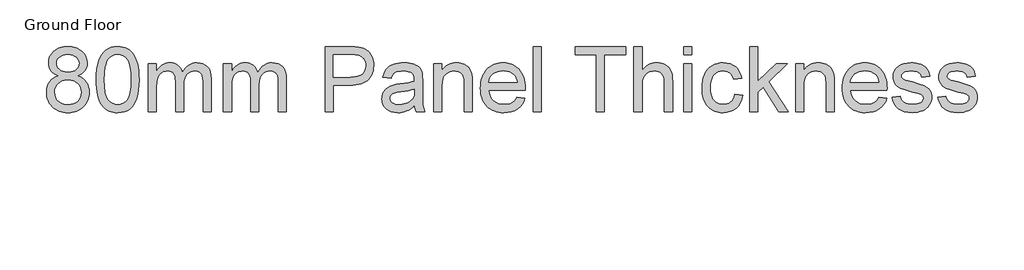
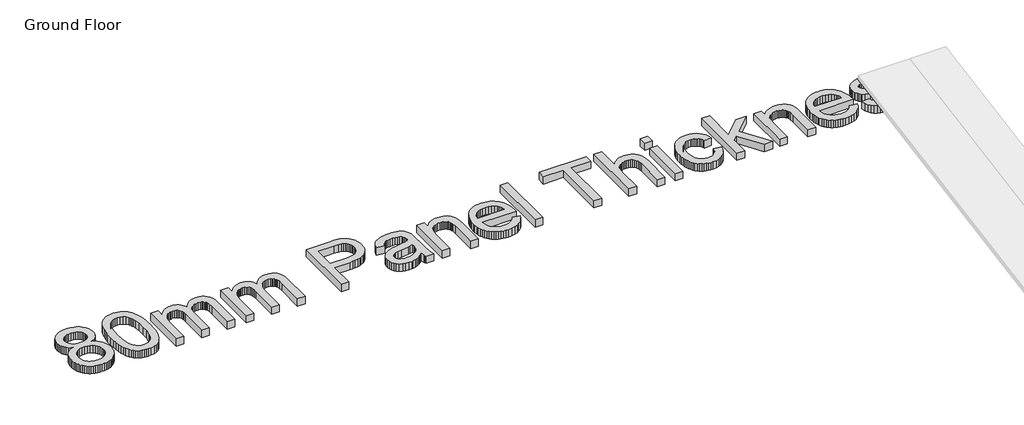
# One storey, part 3 of 5: 1 proxy.
"""IFC4 building model written with IfcOpenShell, lengths in millimetres."""

import ifcopenshell
import ifcopenshell.guid

model = None  # the IFC model being written
_history = None  # IfcOwnerHistory: only IFC2X3 demands one
_inside = {}  # id of a spatial element -> (the spatial element, [elements in it])
_under = {}  # id of a project, library or spatial element -> (it, [spatial elements below it])
_declared = {}  # id of a project -> (the project, [libraries it declares])
_typed = {}  # id of a type object -> (the type object, [elements of that type])
_made_of = {}  # id of a material, layer set ... -> (it, [elements and type objects made of it])


def new_model(schema):
    """Start an empty IFC model of exactly this schema.

    Asked for "IFC4X3", IfcOpenShell would pick the latest addendum, in which some entities
    have other attributes; the version numbers below select the first issue.
    IFC2X3 requires an IfcOwnerHistory on every rooted entity: one is made here for all.
    """
    global model, _history
    if schema == "IFC4X3":
        model = ifcopenshell.file(schema_version=(4, 3, 0, 0))
    else:
        model = ifcopenshell.file(schema=schema)
    _inside.clear()
    _under.clear()
    _declared.clear()
    _typed.clear()
    _made_of.clear()
    _history = None
    if model.schema == "IFC2X3":
        org = make("IfcOrganization", Name="unknown")
        user = make(
            "IfcPersonAndOrganization",
            ThePerson=make("IfcPerson", FamilyName="unknown"),
            TheOrganization=org,
        )
        app = make(
            "IfcApplication",
            ApplicationDeveloper=org,
            Version="unknown",
            ApplicationFullName="unknown",
            ApplicationIdentifier="unknown",
        )
        _history = make(
            "IfcOwnerHistory",
            OwningUser=user,
            OwningApplication=app,
            ChangeAction="ADDED",
            CreationDate=0,
        )
    return model


def make(cls, **values):
    """One entity of the class cls with the attributes given. An attribute that is None is left unset."""
    return model.create_entity(
        cls, **{name: value for name, value in values.items() if value is not None}
    )


def rooted(cls, **values):
    """An entity with a GlobalId (a new one), such as an element, a storey or a relation."""
    return make(cls, GlobalId=ifcopenshell.guid.new(), OwnerHistory=_history, **values)


def si_unit(unit_type, name, prefix=None):
    """IfcSIUnit, for example si_unit("LENGTHUNIT", "METRE", prefix="MILLI")."""
    return make("IfcSIUnit", UnitType=unit_type, Prefix=prefix, Name=name)


def assignment(units):
    """IfcUnitAssignment: the units of a project."""
    return None if units is None else make("IfcUnitAssignment", Units=units)


def point(xyz):
    """IfcCartesianPoint."""
    return None if xyz is None else make("IfcCartesianPoint", Coordinates=xyz)


def direction(xyz):
    """IfcDirection."""
    return None if xyz is None else make("IfcDirection", DirectionRatios=xyz)


def frame(location, z_axis=None, x_axis=None):
    """IfcAxis2Placement3D, a coordinate frame: its origin and axes. An axis left out is left unset."""
    return make(
        "IfcAxis2Placement3D",
        Location=point(location),
        Axis=direction(z_axis),
        RefDirection=direction(x_axis),
    )


def origin():
    """The frame at (0, 0, 0) with its axes left unset."""
    return frame((0.0, 0.0, 0.0))


def origin_with_axes():
    """The frame at (0, 0, 0) with the z axis (0, 0, 1) and the x axis (1, 0, 0) written out."""
    return frame((0.0, 0.0, 0.0), z_axis=(0.0, 0.0, 1.0), x_axis=(1.0, 0.0, 0.0))


def place(relative_to, where):
    """IfcLocalPlacement: puts the frame where relative to a parent placement (None: the world)."""
    return make(
        "IfcLocalPlacement", PlacementRelTo=relative_to, RelativePlacement=where
    )


def context(
    kind, dimensions, precision=None, world=None, true_north=None, identifier=None
):
    """IfcGeometricRepresentationContext, for example the 3D "Model" context."""
    return make(
        "IfcGeometricRepresentationContext",
        ContextIdentifier=identifier,
        ContextType=kind,
        CoordinateSpaceDimension=dimensions,
        Precision=precision,
        WorldCoordinateSystem=world,
        TrueNorth=true_north,
    )


def project(units=None, contexts=None):
    """IfcProject with its units and contexts."""
    return rooted(
        "IfcProject",
        Name="project",
        RepresentationContexts=contexts,
        UnitsInContext=assignment(units),
    )


def spatial(cls, under=None, at=None, **own):
    """A site, building, storey or space (cls), placed at a placement, below another one or the project."""
    s = rooted(cls, ObjectPlacement=at, **own)
    if under is not None:
        _under.setdefault(under.id(), (under, []))[1].append(s)
    return s


def polyline(points):
    """IfcPolyline through the points."""
    return make("IfcPolyline", Points=[point(p) for p in points])


def outline(outer, holes=None, kind="AREA"):
    """IfcArbitraryClosedProfileDef: a profile drawn as a closed curve; with holes, ...WithVoids."""
    if holes is None:
        return make("IfcArbitraryClosedProfileDef", ProfileType=kind, OuterCurve=outer)
    return make(
        "IfcArbitraryProfileDefWithVoids",
        ProfileType=kind,
        OuterCurve=outer,
        InnerCurves=holes,
    )


def extrude(swept, where, along, depth):
    """IfcExtrudedAreaSolid: the profile swept, set in the frame where, extruded along a direction by depth."""
    return make(
        "IfcExtrudedAreaSolid",
        SweptArea=swept,
        Position=where,
        ExtrudedDirection=direction(along),
        Depth=depth,
    )


def shape(context_of_items, identifier, shape_type, items):
    """IfcShapeRepresentation: the items that make up one representation, for example the "Body"."""
    return make(
        "IfcShapeRepresentation",
        ContextOfItems=context_of_items,
        RepresentationIdentifier=identifier,
        RepresentationType=shape_type,
        Items=items,
    )


def made_of(thing, what):
    """Note that an element or type object is made of a material, layer set ...; save() writes the relation."""
    if what is not None:
        _made_of.setdefault(what.id(), (what, []))[1].append(thing)
    return thing


def element(
    cls,
    number,
    at=None,
    inside=None,
    cuts=None,
    type_object=None,
    material=None,
    context=None,
    identifier="Body",
    shape_type=None,
    held_by="IfcProductDefinitionShape",
    body=None,
    shapes=None,
    **own,
):
    """One element of the class cls, such as IfcWall. Its Tag is "e" and its number.

    at: its placement. inside: the storey or other place that contains it. cuts: it is an
    opening in that element (IfcRelVoidsElement). A single representation is given by context,
    identifier, shape_type and body (its items); several are given by shapes. held_by: the class
    of the entity that holds the representations. save() writes the other relations.
    """
    e = rooted(cls, Tag="e%d" % number, ObjectPlacement=at, **own)
    if body is not None:
        shapes = [shape(context, identifier, shape_type, body)]
    if shapes is not None:
        e.Representation = make(held_by, Representations=shapes)
    if inside is not None:
        _inside.setdefault(inside.id(), (inside, []))[1].append(e)
    if cuts is not None:
        rooted(
            "IfcRelVoidsElement", RelatingBuildingElement=cuts, RelatedOpeningElement=e
        )
    if type_object is not None:
        _typed.setdefault(type_object.id(), (type_object, []))[1].append(e)
    return made_of(e, material)


def aggregate(whole, parts):
    """IfcRelAggregates: a whole, such as a stair, and the parts it consists of."""
    return rooted("IfcRelAggregates", RelatingObject=whole, RelatedObjects=parts)


def save(model, path):
    """Write the relations noted so far, then the file.

    IfcRelAggregates (storeys below a building ...), IfcRelContainedInSpatialStructure (elements
    in a storey), IfcRelDefinesByType, IfcRelAssociatesMaterial and IfcRelDeclares: one each for
    every whole, place, type object, material and project.
    """
    for whole, parts in _under.values():
        aggregate(whole, parts)
    for where, things in _inside.values():
        rooted(
            "IfcRelContainedInSpatialStructure",
            RelatedElements=things,
            RelatingStructure=where,
        )
    for kind, things in _typed.values():
        rooted("IfcRelDefinesByType", RelatedObjects=things, RelatingType=kind)
    for what, things in _made_of.values():
        rooted("IfcRelAssociatesMaterial", RelatedObjects=things, RelatingMaterial=what)
    for by, libraries in _declared.values():
        rooted("IfcRelDeclares", RelatingContext=by, RelatedDefinitions=libraries)
    model.write(path)


model = new_model("IFC4")

# Units and contexts
model_context = context("Model", 3, world=origin())
ifc_project = project(units=[si_unit("LENGTHUNIT", "METRE", prefix="MILLI")], contexts=[model_context])

# Site, building, storey
site = spatial("IfcSite", under=ifc_project)
building = spatial("IfcBuilding", under=site)
storey = spatial("IfcBuildingStorey", under=building, Name="Ground Floor", Elevation=0.0)

# Proxy
placement = place(None, origin())
element("IfcBuildingElementProxy", 1, Name="1200mm Arial", ObjectType="1200mm Arial", at=placement, inside=storey, context=model_context, shape_type="SweptSolid", body=[
    extrude(outline(polyline([(-16468.8654482, -36841.548191), (-16511.1251251, -36823.9018842), (-16547.5206329, -36802.8123956), (-16578.0519717, -36778.2797251), (-16602.7191414, -36750.3038729), (-16621.737341, -36719.1538373), (-16635.3217693, -36685.0986172), (-16643.4724262, -36648.1382123), (-16646.1893119, -36608.2726229), (-16640.2713431, -36548.3576726), (-16632.8738822, -36520.2697376), (-16622.5174369, -36493.4281626), (-16609.2020072, -36467.8329478), (-16592.9275931, -36443.484093), (-16551.5018119, -36398.5254638), (-16526.8480921, -36378.6195689), (-16500.2306826, -36361.3677933), (-16471.6495835, -36346.7701371), (-16441.1047948, -36334.8266001), (-16374.1241485, -36318.9018842), (-16299.2887437, -36313.5936456), (-16224.0946741, -36319.0274169), (-16156.6118971, -36335.3287308), (-16125.7622433, -36347.5547163), (-16096.8404127, -36362.4975873), (-16069.8464053, -36380.1573441), (-16044.780221, -36400.5339865), (-16002.6012437, -36446.3713445), (-15986.0309312, -36471.0654141), (-15972.4734028, -36496.9430774), (-15961.9286585, -36524.0043345), (-15954.3966982, -36552.2491854), (-15948.3711301, -36612.2896683), (-15951.0521492, -36650.7474986), (-15959.0952068, -36686.6408757), (-15972.5003026, -36719.9697997), (-15991.2674369, -36750.7342706), (-16015.4862757, -36778.5218239), (-16045.2464852, -36802.919995), (-16080.5480654, -36823.9287841), (-16121.3910164, -36841.548191), (-16073.1057714, -36862.0907159), (-16030.9716272, -36888.138745), (-15994.9885839, -36919.6922784), (-15965.1566414, -36956.751316), (-15941.7447984, -36998.490929), (-15925.0220534, -37044.0861882), (-15914.9884063, -37093.5370937), (-15911.6438573, -37146.8436456), (-15913.3026819, -37184.2434148), (-15918.2791556, -37220.1188587), (-15926.5732785, -37254.4699773), (-15938.1850505, -37287.2967706), (-15953.1144717, -37318.5992386), (-15971.361542, -37348.3773814), (-15992.9262615, -37376.6311989), (-16017.8086301, -37403.360691), (-16045.3989177, -37427.7050625), (-16075.0873943, -37448.8035177), (-16106.8740597, -37466.6560568), (-16140.7589141, -37481.2626797), (-16176.7419575, -37492.6233864), (-16214.8231897, -37500.7381768), (-16255.0026109, -37505.6070511), (-16297.280221, -37507.2300092), (-16339.5578311, -37505.6003262), (-16379.7372522, -37500.711277), (-16417.8184845, -37492.5628617), (-16453.8015278, -37481.1550802), (-16487.6863822, -37466.4879327), (-16519.4730477, -37448.561419), (-16549.1615242, -37427.3755392), (-16576.7518119, -37402.9302933), (-16601.6341805, -37376.0506103), (-16623.1988999, -37347.561419), (-16641.4459703, -37317.4627196), (-16656.3753914, -37285.7545121), (-16667.9871634, -37252.4367963), (-16676.2812863, -37217.5095724), (-16681.25776, -37180.9728404), (-16682.9165846, -37142.8266001), (-16679.4375363, -37087.0900945), (-16669.0003914, -37036.0879638), (-16651.6051499, -36989.8202081), (-16627.2518119, -36948.2868274), (-16596.4783744, -36912.2410177), (-16559.8228346, -36882.4359751), (-16517.2851926, -36858.8716996), (-16468.8654482, -36841.548191)]), holes=[polyline([(-16499.280221, -36612.5766001), (-16496.0253382, -36646.2552223), (-16486.2606897, -36676.7058615), (-16469.9862757, -36703.9285177), (-16447.202096, -36727.923191), (-16418.1950825, -36747.5062876), (-16383.252167, -36761.4942138), (-16342.3733495, -36769.8869695), (-16295.5586301, -36772.6845547), (-16249.9006045, -36769.9049027), (-16209.9094823, -36761.5659467), (-16175.5852636, -36747.6676868), (-16146.9279482, -36728.2101229), (-16124.3320676, -36704.7175802), (-16108.1921528, -36678.7143842), (-16098.5082039, -36650.2005348), (-16095.280221, -36619.176032), (-16098.6158034, -36586.9410355), (-16108.6225505, -36557.3780916), (-16125.3004624, -36530.4872003), (-16148.6495391, -36506.2683615), (-16177.9524511, -36486.2459006), (-16212.4918687, -36471.9441427), (-16252.267792, -36463.3630881), (-16297.280221, -36460.5027365), (-16342.6423481, -36463.3003217), (-16382.6065704, -36471.6930774), (-16417.1728879, -36485.6810035), (-16446.3413005, -36505.2641001), (-16469.5020782, -36528.7566427), (-16486.0454909, -36554.472907), (-16495.9715384, -36582.4128927), (-16499.280221, -36612.5766001)]), polyline([(-16536.0074937, -37137.6618274), (-16529.8743261, -37193.8645973), (-16511.4748232, -37248.2740433), (-16496.8502671, -37273.5150767), (-16477.5092693, -37295.7253927), (-16453.4518296, -37314.9049915), (-16424.6779482, -37331.0538729), (-16393.2947806, -37343.8582052), (-16361.4094823, -37353.004157), (-16329.0220534, -37358.491728), (-16296.1324937, -37360.3209183), (-16243.0142409, -37356.4742386), (-16196.1367551, -37344.9341996), (-16155.5000363, -37325.7008011), (-16121.1040846, -37298.7740433), (-16093.7379624, -37265.9113835), (-16074.1907323, -37228.8702791), (-16062.4623943, -37187.6507301), (-16058.5529482, -37142.2527365), (-16062.5879269, -37096.1284467), (-16074.692863, -37054.1646683), (-16094.8677565, -37016.3614013), (-16123.1126073, -36982.7186456), (-16158.4410874, -36955.1014581), (-16199.8668687, -36935.3748956), (-16247.3899511, -36923.5389581), (-16301.0103346, -36919.5936456), (-16353.3484916, -36923.4851584), (-16399.6072806, -36935.1596967), (-16439.7867018, -36954.6172606), (-16473.8867551, -36981.8578501), (-16501.0645782, -37014.9446754), (-16520.477309, -37051.9409467), (-16532.1249475, -37092.8466641), (-16536.0074937, -37137.6618274)])]), origin_with_axes(), (0.0, 0.0, 1.0), 150.0),
    extrude(outline(polyline([(-15783.0984028, -36910.6987592), (-15780.3994504, -36811.8776477), (-15772.3025931, -36722.5790859), (-15758.8078311, -36642.8030739), (-15739.9151641, -36572.5496115), (-15715.705292, -36511.2448352), (-15686.2589141, -36458.3148814), (-15651.5760306, -36413.75975), (-15611.6566414, -36377.579441), (-15566.3662472, -36349.5856555), (-15515.5703488, -36329.5900945), (-15459.2689461, -36317.5927578), (-15397.4620391, -36313.5936456), (-15351.0149511, -36315.9608331), (-15306.9350505, -36323.0623956), (-15265.2223374, -36334.8983331), (-15225.8768119, -36351.4686456), (-15189.8489355, -36372.4953679), (-15158.0891698, -36397.7005348), (-15130.597515, -36427.0841463), (-15107.373971, -36460.6462024), (-15087.2528772, -36498.2522038), (-15069.0685732, -36539.7676513), (-15038.5103346, -36634.5268842), (-15026.8357963, -36690.2544233), (-15018.4968403, -36754.8589155), (-15013.4934667, -36828.3403608), (-15011.8256755, -36910.6987592), (-15014.4977281, -37008.8922074), (-15022.5138857, -37097.7424382), (-15035.8741485, -37177.2494517), (-15054.5785164, -37247.4132479), (-15078.6000896, -37308.744924), (-15107.9119681, -37361.7555774), (-15142.5141521, -37406.4452081), (-15182.4066414, -37442.813816), (-15227.7508353, -37470.9959006), (-15278.7081329, -37491.1259609), (-15335.2785342, -37503.2039971), (-15397.4620391, -37507.2300092), (-15439.0671528, -37505.4815185), (-15478.3768119, -37500.2360462), (-15515.3910164, -37491.4935923), (-15550.1097664, -37479.254157), (-15582.5330619, -37463.51774), (-15612.6609028, -37444.2843416), (-15640.4932891, -37421.5539616), (-15666.030221, -37395.3266001), (-15693.4680761, -37353.7977028), (-15717.2475505, -37306.8260675), (-15737.3686443, -37254.4116942), (-15753.8313573, -37196.5545831), (-15766.6356897, -37133.254734), (-15775.7816414, -37064.512147), (-15781.2692124, -36990.3268221), (-15783.0984028, -36910.6987592)]), holes=[polyline([(-15636.1893119, -36910.4118274), (-15631.8853346, -37038.1233864), (-15618.9734028, -37141.4995405), (-15609.2894539, -37184.0618407), (-15597.4535164, -37220.5402898), (-15583.4655903, -37250.9348876), (-15567.3256755, -37275.2456342), (-15530.8853346, -37312.466071), (-15490.4279482, -37339.0520973), (-15445.9535164, -37355.0037131), (-15397.4620391, -37360.3209183), (-15348.9705619, -37354.9857798), (-15304.4961301, -37338.9803643), (-15264.0387437, -37312.3046719), (-15227.5984028, -37274.9587024), (-15211.458488, -37250.5896728), (-15197.4705619, -37220.1636918), (-15185.6346244, -37183.6807594), (-15175.9506755, -37141.1408757), (-15163.0387437, -37037.8902543), (-15158.7347664, -36910.4118274), (-15162.8952778, -36786.0806839), (-15175.3768119, -36684.5247535), (-15184.7379624, -36642.2874932), (-15196.1793687, -36605.7440362), (-15209.7010306, -36574.8943824), (-15225.3029482, -36549.738532), (-15261.133559, -36510.6978714), (-15302.0572096, -36482.8116854), (-15348.0738999, -36466.0799737), (-15399.1836301, -36460.5027365), (-15447.424042, -36465.4164439), (-15491.1452778, -36480.157566), (-15530.3473374, -36504.726103), (-15565.030221, -36539.1220547), (-15581.7081329, -36566.954441), (-15596.1623232, -36600.095066), (-15608.392792, -36638.5439297), (-15618.3995391, -36682.301032), (-15631.7418687, -36785.7399524), (-15636.1893119, -36910.4118274)])]), origin_with_axes(), (0.0, 0.0, 1.0), 150.0),
    extrude(outline(polyline([(-14846.5529482, -37488.8663729), (-14846.5529482, -36625.7754638), (-14699.6438573, -36625.7754638), (-14699.6438573, -36767.8067138), (-14679.1282323, -36733.4197287), (-14655.4563573, -36702.5655916), (-14628.6282323, -36675.2443025), (-14598.6438573, -36651.4558615), (-14565.9874298, -36632.1865966), (-14531.1431471, -36618.4228359), (-14494.1110093, -36610.1645795), (-14454.8910164, -36607.4118274), (-14412.0126428, -36610.2183793), (-14373.1871812, -36618.6380348), (-14338.4146315, -36632.670794), (-14307.6949937, -36652.316657), (-14281.117934, -36677.0196932), (-14258.7731187, -36706.2239723), (-14240.6605477, -36739.9294943), (-14226.780221, -36778.1362592), (-14200.9473907, -36738.1227205), (-14173.2315704, -36703.4443203), (-14143.63276, -36674.1010586), (-14112.1509596, -36650.0929354), (-14078.7861691, -36631.4199506), (-14043.5383886, -36618.0821044), (-14006.407618, -36610.0793967), (-13967.3938573, -36607.4118274), (-13908.5818012, -36611.850304), (-13856.9609738, -36625.1657337), (-13812.5313751, -36647.3581165), (-13775.2930051, -36678.4274524), (-13745.8555938, -36718.7324062), (-13724.8288715, -36768.6316427), (-13712.2128382, -36828.1251619), (-13708.0074937, -36897.2129638), (-13708.0074937, -37488.8663729), (-13854.9165846, -37488.8663729), (-13854.9165846, -36960.3379638), (-13858.3238999, -36887.0627507), (-13868.545846, -36837.6746115), (-13876.741336, -36819.8579389), (-13887.6985448, -36803.8525234), (-13901.4174724, -36789.658365), (-13917.8981187, -36777.2754638), (-13936.5397203, -36767.2328501), (-13956.7415136, -36760.0595547), (-14001.8256755, -36754.3209183), (-14043.457689, -36757.9972322), (-14081.4133886, -36769.026174), (-14115.6927742, -36787.4077436), (-14146.295846, -36813.141941), (-14171.4651464, -36846.9819623), (-14189.4432181, -36889.6810035), (-14200.2300612, -36941.2390646), (-14203.8256755, -37001.6561456), (-14203.8256755, -37488.8663729), (-14350.7347664, -37488.8663729), (-14350.7347664, -36943.9828501), (-14352.8598552, -36899.4725518), (-14359.2351215, -36860.9160888), (-14369.8605654, -36828.3134609), (-14384.7361869, -36801.6646683), (-14404.4537828, -36780.9517777), (-14429.6051499, -36766.1568558), (-14460.1902884, -36757.2799027), (-14496.2091982, -36754.3209183), (-14525.0637792, -36756.2935746), (-14552.8064994, -36762.2115433), (-14579.4373588, -36772.0748246), (-14604.9563573, -36785.8834183), (-14628.1978346, -36803.4938587), (-14647.9961301, -36824.7626797), (-14664.3512437, -36849.6898814), (-14677.2631755, -36878.2754638), (-14687.0547238, -36912.0437521), (-14694.0486869, -36952.5190717), (-14699.6438573, -37053.5908047), (-14699.6438573, -37488.8663729), (-14846.5529482, -37488.8663729)])), origin_with_axes(), (0.0, 0.0, 1.0), 150.0),
    extrude(outline(polyline([(-13487.6438573, -37488.8663729), (-13487.6438573, -36625.7754638), (-13340.7347664, -36625.7754638), (-13340.7347664, -36767.8067138), (-13320.2191414, -36733.4197287), (-13296.5472664, -36702.5655916), (-13269.7191414, -36675.2443025), (-13239.7347664, -36651.4558615), (-13207.0783389, -36632.1865966), (-13172.2340562, -36618.4228359), (-13135.2019184, -36610.1645795), (-13095.9819255, -36607.4118274), (-13053.1035519, -36610.2183793), (-13014.2780903, -36618.6380348), (-12979.5055406, -36632.670794), (-12948.7859028, -36652.316657), (-12922.2088431, -36677.0196932), (-12899.8640278, -36706.2239723), (-12881.7514568, -36739.9294943), (-12867.8711301, -36778.1362592), (-12842.0382998, -36738.1227205), (-12814.3224795, -36703.4443203), (-12784.7236691, -36674.1010586), (-12753.2418687, -36650.0929354), (-12719.8770782, -36631.4199506), (-12684.6292977, -36618.0821044), (-12647.4985271, -36610.0793967), (-12608.4847664, -36607.4118274), (-12549.6727103, -36611.850304), (-12498.0518829, -36625.1657337), (-12453.6222842, -36647.3581165), (-12416.3839141, -36678.4274524), (-12386.9465029, -36718.7324062), (-12365.9197806, -36768.6316427), (-12353.3037472, -36828.1251619), (-12349.0984028, -36897.2129638), (-12349.0984028, -37488.8663729), (-12496.0074937, -37488.8663729), (-12496.0074937, -36960.3379638), (-12499.414809, -36887.0627507), (-12509.6367551, -36837.6746115), (-12517.8322451, -36819.8579389), (-12528.7894539, -36803.8525234), (-12542.5083815, -36789.658365), (-12558.9890278, -36777.2754638), (-12577.6306293, -36767.2328501), (-12597.8324227, -36760.0595547), (-12642.9165846, -36754.3209183), (-12684.5485981, -36757.9972322), (-12722.5042977, -36769.026174), (-12756.7836833, -36787.4077436), (-12787.3867551, -36813.141941), (-12812.5560555, -36846.9819623), (-12830.5341272, -36889.6810035), (-12841.3209703, -36941.2390646), (-12844.9165846, -37001.6561456), (-12844.9165846, -37488.8663729), (-12991.8256755, -37488.8663729), (-12991.8256755, -36943.9828501), (-12993.9507643, -36899.4725518), (-13000.3260306, -36860.9160888), (-13010.9514745, -36828.3134609), (-13025.827096, -36801.6646683), (-13045.5446918, -36780.9517777), (-13070.696059, -36766.1568558), (-13101.2811975, -36757.2799027), (-13137.3001073, -36754.3209183), (-13166.1546883, -36756.2935746), (-13193.8974085, -36762.2115433), (-13220.5282678, -36772.0748246), (-13246.0472664, -36785.8834183), (-13269.2887437, -36803.4938587), (-13289.0870391, -36824.7626797), (-13305.4421528, -36849.6898814), (-13318.3540846, -36878.2754638), (-13328.1456329, -36912.0437521), (-13335.139596, -36952.5190717), (-13340.7347664, -37053.5908047), (-13340.7347664, -37488.8663729), (-13487.6438573, -37488.8663729)])), origin_with_axes(), (0.0, 0.0, 1.0), 150.0),
    extrude(outline(polyline([(-11651.280221, -37488.8663729), (-11651.280221, -36313.5936456), (-11215.717721, -36313.5936456), (-11114.2873232, -36316.3912308), (-11040.1154482, -36324.7839865), (-10999.2366308, -36333.5981733), (-10961.8189284, -36345.6941427), (-10927.862341, -36361.0718949), (-10897.3668687, -36379.7314297), (-10870.0097132, -36402.0583118), (-10845.4680761, -36428.4381058), (-10823.7419575, -36458.8708118), (-10804.8313573, -36493.3564297), (-10789.5163715, -36530.7561989), (-10778.577096, -36569.9313587), (-10772.0135306, -36610.8819091), (-10769.8256755, -36653.6078501), (-10775.7346776, -36725.7532692), (-10783.1209303, -36759.6605401), (-10793.461684, -36792.1241854), (-10806.7569388, -36823.1442049), (-10823.0066947, -36852.7205987), (-10842.2109516, -36880.8533668), (-10864.3697096, -36907.5425092), (-10890.3841139, -36931.8868807), (-10921.1553097, -36952.9853359), (-10956.6832971, -36970.837875), (-10996.9680761, -36985.4444979), (-11042.0096466, -36996.8052045), (-11091.8080086, -37004.919995), (-11146.3631622, -37009.7888693), (-11205.6751073, -37011.4118274), (-11504.3711301, -37011.4118274), (-11504.3711301, -37488.8663729), (-11651.280221, -37488.8663729)]), holes=[polyline([(-11504.3711301, -36864.5027365), (-11197.0671528, -36864.5027365), (-11126.4101926, -36861.1312876), (-11066.8001073, -36851.016941), (-11018.2368971, -36834.1596967), (-10980.7205619, -36810.5595547), (-10952.7267764, -36780.8441783), (-10932.7312153, -36745.6412308), (-10920.7338786, -36704.9507123), (-10916.7347664, -36658.7726229), (-10919.0929873, -36624.4842706), (-10926.1676499, -36592.7783047), (-10937.9587543, -36563.6547251), (-10954.4663005, -36537.113532), (-10974.8115597, -36514.0155206), (-10998.1158034, -36495.2214865), (-11024.3790313, -36480.7314297), (-11053.6012437, -36470.5453501), (-11110.2702778, -36463.0133899), (-11200.5103346, -36460.5027365), (-11504.3711301, -36460.5027365), (-11504.3711301, -36864.5027365)])]), origin_with_axes(), (0.0, 0.0, 1.0), 150.0),
    extrude(outline(polyline([(-10035.280221, -37378.6845547), (-10070.115537, -37411.3768487), (-10105.470917, -37438.8685035), (-10141.3463609, -37461.1595192), (-10177.7418687, -37478.2498956), (-10215.0699049, -37490.9286953), (-10253.742934, -37499.9849808), (-10293.7609561, -37505.4187521), (-10335.123971, -37507.2300092), (-10400.5354589, -37502.8722322), (-10457.8949227, -37489.7989013), (-10507.2023623, -37468.0100163), (-10548.4577778, -37437.5055774), (-10581.0335058, -37400.2223743), (-10604.3018829, -37358.0971967), (-10618.2629092, -37311.1300447), (-10622.9165846, -37259.3209183), (-10621.1591272, -37228.1708828), (-10615.8867551, -37198.4196399), (-10607.0994681, -37170.0671896), (-10594.7972664, -37143.113532), (-10579.6347132, -37118.1504638), (-10562.2663715, -37095.769782), (-10542.6922416, -37075.9714865), (-10520.9123232, -37058.7555774), (-10472.3132465, -37030.7797251), (-10418.0472664, -37010.551032), (-10365.1800789, -36999.2889581), (-10290.936471, -36988.457282), (-10140.7276641, -36965.2158047), (-10082.7315704, -36952.088674), (-10036.1410164, -36937.957282), (-10035.280221, -36905.2470547), (-10037.8088076, -36869.6316427), (-10045.3945676, -36839.6831342), (-10058.0375008, -36815.4015291), (-10075.7376073, -36796.7868274), (-10106.3317124, -36778.2079922), (-10143.5969823, -36764.9373956), (-10187.533417, -36756.9750376), (-10238.1410164, -36754.3209183), (-10285.1978346, -36756.0873423), (-10325.655221, -36761.3866143), (-10359.5131755, -36770.2187344), (-10386.7716982, -36782.5837024), (-10409.1703133, -36799.4499133), (-10428.4485448, -36821.7857621), (-10444.6063928, -36849.5912486), (-10457.6438573, -36882.8663729), (-10604.5529482, -36864.5027365), (-10593.371574, -36822.1802933), (-10579.0518829, -36784.1618274), (-10561.5938751, -36750.4473388), (-10540.9975505, -36721.0368274), (-10516.3752139, -36695.3384964), (-10486.8391698, -36672.760549), (-10452.3894184, -36653.3029851), (-10413.0259596, -36636.9658047), (-10369.5468225, -36624.0359396), (-10322.7500363, -36614.8003217), (-10272.6356009, -36609.258951), (-10219.2035164, -36607.4118274), (-10166.9729589, -36609.0437521), (-10119.8892409, -36613.9395263), (-10077.9523623, -36622.0991498), (-10041.1623232, -36633.5226229), (-10009.2142586, -36647.4119162), (-9981.8033034, -36662.9690007), (-9958.9294575, -36680.1938764), (-9940.592721, -36699.0865433), (-9925.7260661, -36720.1132656), (-9913.2624653, -36743.7403075), (-9895.5444255, -36798.7953501), (-9890.1644539, -36849.582282), (-9888.3711301, -36927.3408047), (-9888.3711301, -37110.1163729), (-9886.5060732, -37269.3276655), (-9880.9109028, -37365.3422251), (-9869.8640278, -37428.4313587), (-9851.6438573, -37488.8663729), (-9998.5529482, -37488.8663729), (-10011.608346, -37464.3337024), (-10022.0813573, -37437.7925092), (-10035.280221, -37378.6845547)]), holes=[polyline([(-10035.280221, -37084.8663729), (-10079.6829198, -37097.5810391), (-10133.9847664, -37109.3273104), (-10272.2859028, -37129.9146683), (-10348.502167, -37141.1767422), (-10398.6793687, -37153.7300092), (-10431.5689284, -37170.0133899), (-10455.9222664, -37192.4658047), (-10470.9861869, -37219.3656626), (-10476.0074937, -37248.9913729), (-10473.2726748, -37271.8203856), (-10465.0682181, -37292.6767422), (-10451.3941237, -37311.5604425), (-10432.2503914, -37328.4714865), (-10407.8163538, -37342.4056129), (-10378.2713431, -37352.3585604), (-10343.6153595, -37358.3303288), (-10303.8484028, -37360.3209183), (-10263.2475505, -37358.1240966), (-10224.9421528, -37351.5336314), (-10188.9322096, -37340.5495227), (-10155.217721, -37325.1717706), (-10124.8029482, -37306.6736349), (-10098.6921528, -37286.3283757), (-10076.8853346, -37264.1359929), (-10059.3824937, -37240.0964865), (-10049.2143474, -37218.5766001), (-10041.9513857, -37192.4658047), (-10037.5936088, -37161.7641001), (-10036.1410164, -37126.4714865), (-10035.280221, -37084.8663729)])]), origin_with_axes(), (0.0, 0.0, 1.0), 150.0),
    extrude(outline(polyline([(-9686.3711301, -37488.8663729), (-9686.3711301, -36625.7754638), (-9539.4620391, -36625.7754638), (-9539.4620391, -36746.2868274), (-9515.2252671, -36713.7379993), (-9488.424042, -36685.5290149), (-9459.0583637, -36661.6598743), (-9427.1282323, -36642.1305774), (-9392.6336478, -36626.9411243), (-9355.5746102, -36616.0915149), (-9315.9511194, -36609.5817493), (-9273.7631755, -36607.4118274), (-9236.7938041, -36609.1603182), (-9201.3487579, -36614.4057905), (-9167.428037, -36623.1482443), (-9135.0316414, -36635.3876797), (-9105.387998, -36650.4695334), (-9079.7255335, -36667.7392422), (-9058.044248, -36687.1968061), (-9040.3441414, -36708.8422251), (-9013.6236159, -36758.5890291), (-8996.3001073, -36816.8720547), (-8990.489738, -36872.6085604), (-8988.5529482, -36958.9033047), (-8988.5529482, -37488.8663729), (-9135.4620391, -37488.8663729), (-9135.4620391, -36978.7016001), (-9139.6942835, -36902.7364013), (-9144.9845889, -36872.9851584), (-9152.3910164, -36848.7214865), (-9162.4784632, -36828.2865611), (-9175.8118261, -36810.0215575), (-9192.3911052, -36793.9264758), (-9212.2163005, -36780.001316), (-9234.605949, -36768.766142), (-9258.8785874, -36760.7410177), (-9285.034216, -36755.9259432), (-9313.0728346, -36754.3209183), (-9357.6817657, -36757.9254993), (-9399.1165136, -36768.7392422), (-9437.3770782, -36786.762147), (-9472.4634596, -36811.9942138), (-9488.1662517, -36828.0310124), (-9501.7753382, -36847.3047606), (-9513.290719, -36869.8154584), (-9522.7123943, -36895.5631058), (-9535.2746279, -36956.7692493), (-9539.4620391, -37030.923191), (-9539.4620391, -37488.8663729), (-9686.3711301, -37488.8663729)])), origin_with_axes(), (0.0, 0.0, 1.0), 150.0),
    extrude(outline(polyline([(-8182.2745391, -37231.7754638), (-8038.2347664, -37250.1391001), (-8060.3195498, -37307.8303288), (-8090.133559, -37358.6710604), (-8127.6767941, -37402.6612947), (-8172.9492551, -37439.801032), (-8225.4846776, -37469.3012095), (-8284.8167977, -37490.3727649), (-8350.9456151, -37503.0156981), (-8423.8711301, -37507.2300092), (-8470.6903328, -37505.4120272), (-8515.025782, -37499.958081), (-8556.8774777, -37490.8681706), (-8596.2454198, -37478.1422962), (-8633.1296084, -37461.7804576), (-8667.5300434, -37441.7826548), (-8699.4467249, -37418.148888), (-8728.8796528, -37390.879157), (-8755.3087632, -37360.3276433), (-8778.2139923, -37326.8485284), (-8797.5953399, -37290.4418123), (-8813.4528062, -37251.107495), (-8825.7863911, -37208.8455765), (-8834.5960945, -37163.6560568), (-8839.8819166, -37115.5389359), (-8841.6438573, -37064.4942138), (-8839.8639834, -37011.7122092), (-8834.5243616, -36961.9698885), (-8825.6249919, -36915.2672518), (-8813.1658744, -36871.604299), (-8797.147009, -36830.9810302), (-8777.5683957, -36793.3974453), (-8754.4300345, -36758.8535444), (-8727.7319255, -36727.3493274), (-8698.1958815, -36699.2389758), (-8666.5437153, -36674.8766712), (-8632.7754269, -36654.2624133), (-8596.8910164, -36637.3962024), (-8558.8904838, -36624.2780383), (-8518.7738289, -36614.9079212), (-8476.5410519, -36609.2858508), (-8432.1921528, -36607.4118274), (-8389.2936043, -36609.2813675), (-8348.3990953, -36614.8899879), (-8309.5086256, -36624.2376886), (-8272.6221954, -36637.3244695), (-8237.7398046, -36654.1503306), (-8204.8614532, -36674.715272), (-8173.9871412, -36699.0192937), (-8145.1168687, -36727.0623956), (-8118.9903817, -36758.4948796), (-8096.3474262, -36792.9670476), (-8077.1880024, -36830.4788995), (-8061.5121102, -36871.0304354), (-8049.3197496, -36914.6216552), (-8040.6109205, -36961.2525589), (-8035.3856231, -37010.9231467), (-8033.6438573, -37063.6334183), (-8034.5046528, -37103.2300092), (-8694.7347664, -37103.2300092), (-8686.2254447, -37161.8537663), (-8669.305434, -37213.1966285), (-8643.9747345, -37257.2585959), (-8610.233346, -37294.0396683), (-8569.9463254, -37323.0377152), (-8524.9787295, -37343.7506058), (-8475.3305583, -37356.1783402), (-8421.0018119, -37360.3209183), (-8380.3650931, -37358.4020618), (-8342.8128914, -37352.6454922), (-8308.3452068, -37343.0512095), (-8276.9620391, -37329.6192138), (-8248.6633886, -37311.9908402), (-8223.4492551, -37289.807424), (-8201.3196386, -37263.0689652), (-8182.2745391, -37231.7754638)]), holes=[polyline([(-8694.7347664, -36956.3209183), (-8180.5529482, -36956.3209183), (-8188.1028417, -36914.7516712), (-8200.4229766, -36878.7058615), (-8217.5133531, -36848.1834893), (-8239.373971, -36823.1845547), (-8279.4368261, -36793.0567138), (-8325.0231187, -36771.5368274), (-8376.1328488, -36758.6248956), (-8432.7660164, -36754.3209183), (-8484.4227103, -36757.7551335), (-8531.7933602, -36768.0577791), (-8574.877966, -36785.2288551), (-8613.6765278, -36809.2683615), (-8646.2343225, -36839.0644375), (-8670.5966272, -36873.5052223), (-8686.7634418, -36912.5907159), (-8694.7347664, -36956.3209183)])]), origin_with_axes(), (0.0, 0.0, 1.0), 150.0),
    extrude(outline(polyline([(-7886.7347664, -37488.8663729), (-7886.7347664, -36313.5936456), (-7739.8256755, -36313.5936456), (-7739.8256755, -37488.8663729), (-7886.7347664, -37488.8663729)])), origin_with_axes(), (0.0, 0.0, 1.0), 150.0),
    extrude(outline(polyline([(-6748.1893119, -37488.8663729), (-6748.1893119, -36460.5027365), (-7133.8256755, -36460.5027365), (-7133.8256755, -36313.5936456), (-6215.6438573, -36313.5936456), (-6215.6438573, -36460.5027365), (-6601.280221, -36460.5027365), (-6601.280221, -37488.8663729), (-6748.1893119, -37488.8663729)])), origin_with_axes(), (0.0, 0.0, 1.0), 150.0),
    extrude(outline(polyline([(-6068.7347664, -37488.8663729), (-6068.7347664, -36313.5936456), (-5921.8256755, -36313.5936456), (-5921.8256755, -36745.7129638), (-5895.6745303, -36713.2986349), (-5867.8645605, -36685.2062166), (-5838.3957661, -36661.4357088), (-5807.2681471, -36641.9871115), (-5774.4817036, -36626.8604247), (-5740.0364355, -36616.0556484), (-5703.9323428, -36609.5727827), (-5666.1694255, -36607.4118274), (-5620.2424014, -36609.7700483), (-5577.4357607, -36616.8447109), (-5537.7495036, -36628.6358153), (-5501.1836301, -36645.1433615), (-5468.6706684, -36665.811419), (-5441.1431471, -36690.0840575), (-5418.6010661, -36717.961277), (-5401.0444255, -36749.4430774), (-5387.8634951, -36786.4752152), (-5378.4485448, -36831.0034467), (-5372.7995747, -36883.027772), (-5370.9165846, -36942.548191), (-5370.9165846, -37488.8663729), (-5517.8256755, -37488.8663729), (-5517.8256755, -36957.7555774), (-5520.7487934, -36908.1522393), (-5529.5181471, -36865.7939297), (-5544.1337366, -36830.6806484), (-5564.5955619, -36802.8123956), (-5590.4194255, -36781.5973743), (-5621.1211301, -36766.4437876), (-5656.7006755, -36757.3516356), (-5697.1580619, -36754.3209183), (-5728.6757288, -36756.3653075), (-5759.242934, -36762.4984751), (-5788.8596776, -36772.7204212), (-5817.5259596, -36787.0311456), (-5843.6905548, -36804.8388516), (-5865.802238, -36825.5517422), (-5883.8610093, -36849.1698175), (-5897.8668687, -36875.6930774), (-5908.3488467, -36906.3409822), (-5915.8359738, -36942.3329922), (-5920.3282501, -36983.6691072), (-5921.8256755, -37030.3493274), (-5921.8256755, -37488.8663729), (-6068.7347664, -37488.8663729)])), origin_with_axes(), (0.0, 0.0, 1.0), 150.0),
    extrude(outline(polyline([(-5168.9165846, -37488.8663729), (-5168.9165846, -36625.7754638), (-5022.0074937, -36625.7754638), (-5022.0074937, -37488.8663729), (-5168.9165846, -37488.8663729)])), origin_with_axes(), (0.0, 0.0, 1.0), 150.0),
    extrude(outline(polyline([(-5168.9165846, -36460.5027365), (-5168.9165846, -36313.5936456), (-5022.0074937, -36313.5936456), (-5022.0074937, -36460.5027365), (-5168.9165846, -36460.5027365)])), origin_with_axes(), (0.0, 0.0, 1.0), 150.0),
    extrude(outline(polyline([(-4250.7347664, -37176.6845547), (-4103.8256755, -37195.048191), (-4119.8041911, -37264.369125), (-4144.7851926, -37325.7097677), (-4178.7686798, -37379.0701193), (-4221.7546528, -37424.4501797), (-4271.9318545, -37460.6663551), (-4327.4890278, -37486.5350518), (-4388.4261727, -37502.0562699), (-4454.7432891, -37507.2300092), (-4497.0052077, -37505.4254771), (-4537.1375541, -37500.0118807), (-4575.1403284, -37490.98922), (-4611.0135306, -37478.357495), (-4644.7571608, -37462.1167058), (-4676.3712188, -37442.2668523), (-4705.8557048, -37418.8079345), (-4733.2106187, -37391.7399524), (-4757.8576135, -37361.3005215), (-4779.2183424, -37327.7272571), (-4797.2928053, -37291.0201593), (-4812.0810022, -37251.179228), (-4823.5829331, -37208.2044632), (-4831.7985981, -37162.095865), (-4836.7279971, -37112.8534334), (-4838.3711301, -37060.4771683), (-4835.5645782, -36992.931625), (-4827.1449227, -36929.7438587), (-4813.1121634, -36870.9138693), (-4793.4663005, -36816.441657), (-4768.0728346, -36767.4211491), (-4736.7972664, -36724.9462734), (-4699.639596, -36689.0170298), (-4656.5998232, -36659.6334183), (-4609.6237046, -36636.7864723), (-4560.6569965, -36620.4672251), (-4509.699699, -36610.6756768), (-4456.7518119, -36607.4118274), (-4391.5734561, -36611.8951371), (-4332.617934, -36625.345066), (-4279.8852458, -36647.7616143), (-4233.3753914, -36679.144782), (-4193.8774333, -36718.7772393), (-4162.180434, -36765.941657), (-4138.2843936, -36820.6380348), (-4122.1893119, -36882.8663729), (-4269.0984028, -36901.2300092), (-4280.5667089, -36866.9147571), (-4295.7471954, -36837.1366143), (-4314.6398623, -36811.895581), (-4337.2447096, -36791.191657), (-4362.9878737, -36775.0607088), (-4391.2954909, -36763.538603), (-4422.1675612, -36756.6253395), (-4455.6040846, -36754.3209183), (-4505.5212543, -36758.8580277), (-4550.5426499, -36772.4693558), (-4590.6682714, -36795.1549027), (-4625.8981187, -36826.9146683), (-4641.2646626, -36846.3811989), (-4654.5823339, -36868.4839155), (-4675.071059, -36920.597907), (-4687.3642941, -36983.2566427), (-4691.4620391, -37056.4601229), (-4687.4539603, -37130.7664971), (-4675.4297238, -37194.1515291), (-4655.3893296, -37246.6152187), (-4642.3630734, -37268.7515602), (-4627.3327778, -37288.157566), (-4592.8023268, -37319.7290327), (-4553.3402352, -37342.2800802), (-4508.9465029, -37355.8107088), (-4459.6211301, -37360.3209183), (-4419.8721066, -37357.5053998), (-4383.5483318, -37349.0588445), (-4350.6498055, -37334.9812521), (-4321.1765278, -37315.2726229), (-4295.9534276, -37289.7177578), (-4275.805434, -37258.1014581), (-4260.732547, -37220.4237237), (-4250.7347664, -37176.6845547)])), origin_with_axes(), (0.0, 0.0, 1.0), 150.0),
    extrude(outline(polyline([(-3975.280221, -37488.8663729), (-3975.280221, -36313.5936456), (-3828.3711301, -36313.5936456), (-3828.3711301, -36945.1305774), (-3498.9734028, -36625.7754638), (-3295.8256755, -36625.7754638), (-3629.2404482, -36949.1476229), (-3277.4620391, -37488.8663729), (-3449.0472664, -37488.8663729), (-3734.5444255, -37051.2953501), (-3828.3711301, -37142.2527365), (-3828.3711301, -37488.8663729), (-3975.280221, -37488.8663729)])), origin_with_axes(), (0.0, 0.0, 1.0), 150.0),
    extrude(outline(polyline([(-3148.9165846, -37488.8663729), (-3148.9165846, -36625.7754638), (-3002.0074937, -36625.7754638), (-3002.0074937, -36746.2868274), (-2977.7707217, -36713.7379993), (-2950.9694965, -36685.5290149), (-2921.6038183, -36661.6598743), (-2889.6736869, -36642.1305774), (-2855.1791024, -36626.9411243), (-2818.1200647, -36616.0915149), (-2778.496574, -36609.5817493), (-2736.3086301, -36607.4118274), (-2699.3392586, -36609.1603182), (-2663.8942124, -36614.4057905), (-2629.9734916, -36623.1482443), (-2597.577096, -36635.3876797), (-2567.9334525, -36650.4695334), (-2542.270988, -36667.7392422), (-2520.5897025, -36687.1968061), (-2502.889596, -36708.8422251), (-2476.1690704, -36758.5890291), (-2458.8455619, -36816.8720547), (-2453.0351926, -36872.6085604), (-2451.0984028, -36958.9033047), (-2451.0984028, -37488.8663729), (-2598.0074937, -37488.8663729), (-2598.0074937, -36978.7016001), (-2602.239738, -36902.7364013), (-2607.5300434, -36872.9851584), (-2614.936471, -36848.7214865), (-2625.0239177, -36828.2865611), (-2638.3572806, -36810.0215575), (-2654.9365597, -36793.9264758), (-2674.7617551, -36780.001316), (-2697.1514035, -36768.766142), (-2721.424042, -36760.7410177), (-2747.5796705, -36755.9259432), (-2775.6182891, -36754.3209183), (-2820.2272203, -36757.9254993), (-2861.6619681, -36768.7392422), (-2899.9225328, -36786.762147), (-2935.0089141, -36811.9942138), (-2950.7117062, -36828.0310124), (-2964.3207927, -36847.3047606), (-2975.8361736, -36869.8154584), (-2985.2578488, -36895.5631058), (-2997.8200825, -36956.7692493), (-3002.0074937, -37030.923191), (-3002.0074937, -37488.8663729), (-3148.9165846, -37488.8663729)])), origin_with_axes(), (0.0, 0.0, 1.0), 150.0),
    extrude(outline(polyline([(-1644.8199937, -37231.7754638), (-1500.780221, -37250.1391001), (-1522.8650043, -37307.8303288), (-1552.6790136, -37358.6710604), (-1590.2222487, -37402.6612947), (-1635.4947096, -37439.801032), (-1688.0301322, -37469.3012095), (-1747.3622522, -37490.3727649), (-1813.4910697, -37503.0156981), (-1886.4165846, -37507.2300092), (-1933.2357874, -37505.4120272), (-1977.5712366, -37499.958081), (-2019.4229323, -37490.8681706), (-2058.7908744, -37478.1422962), (-2095.6750629, -37461.7804576), (-2130.075498, -37441.7826548), (-2161.9921794, -37418.148888), (-2191.4251073, -37390.879157), (-2217.8542178, -37360.3276433), (-2240.7594468, -37326.8485284), (-2260.1407945, -37290.4418123), (-2275.9982607, -37251.107495), (-2288.3318456, -37208.8455765), (-2297.1415491, -37163.6560568), (-2302.4273712, -37115.5389359), (-2304.1893119, -37064.4942138), (-2302.4094379, -37011.7122092), (-2297.0698161, -36961.9698885), (-2288.1704465, -36915.2672518), (-2275.7113289, -36871.604299), (-2259.6924635, -36830.9810302), (-2240.1138502, -36793.3974453), (-2216.9754891, -36758.8535444), (-2190.2773801, -36727.3493274), (-2160.741336, -36699.2389758), (-2129.0891698, -36674.8766712), (-2095.3208815, -36654.2624133), (-2059.436471, -36637.3962024), (-2021.4359383, -36624.2780383), (-1981.3192835, -36614.9079212), (-1939.0865065, -36609.2858508), (-1894.7376073, -36607.4118274), (-1851.8390589, -36609.2813675), (-1810.9445498, -36614.8899879), (-1772.0540802, -36624.2376886), (-1735.1676499, -36637.3244695), (-1700.2852591, -36654.1503306), (-1667.4069078, -36674.715272), (-1636.5325958, -36699.0192937), (-1607.6623232, -36727.0623956), (-1581.5358362, -36758.4948796), (-1558.8928808, -36792.9670476), (-1539.7334569, -36830.4788995), (-1524.0575647, -36871.0304354), (-1511.8652041, -36914.6216552), (-1503.1563751, -36961.2525589), (-1497.9310777, -37010.9231467), (-1496.1893119, -37063.6334183), (-1497.0501073, -37103.2300092), (-2157.280221, -37103.2300092), (-2148.7708992, -37161.8537663), (-2131.8508886, -37213.1966285), (-2106.520189, -37257.2585959), (-2072.7788005, -37294.0396683), (-2032.4917799, -37323.0377152), (-1987.524184, -37343.7506058), (-1937.8760129, -37356.1783402), (-1883.5472664, -37360.3209183), (-1842.9105477, -37358.4020618), (-1805.358346, -37352.6454922), (-1770.8906613, -37343.0512095), (-1739.5074937, -37329.6192138), (-1711.2088431, -37311.9908402), (-1685.9947096, -37289.807424), (-1663.8650931, -37263.0689652), (-1644.8199937, -37231.7754638)]), holes=[polyline([(-2157.280221, -36956.3209183), (-1643.0984028, -36956.3209183), (-1650.6482963, -36914.7516712), (-1662.9684312, -36878.7058615), (-1680.0588076, -36848.1834893), (-1701.9194255, -36823.1845547), (-1741.9822806, -36793.0567138), (-1787.5685732, -36771.5368274), (-1838.6783034, -36758.6248956), (-1895.311471, -36754.3209183), (-1946.9681649, -36757.7551335), (-1994.3388147, -36768.0577791), (-2037.4234205, -36785.2288551), (-2076.2219823, -36809.2683615), (-2108.7797771, -36839.0644375), (-2133.1420818, -36873.5052223), (-2149.3088964, -36912.5907159), (-2157.280221, -36956.3209183)])]), origin_with_axes(), (0.0, 0.0, 1.0), 150.0),
    extrude(outline(polyline([(-1404.3711301, -37231.7754638), (-1257.4620391, -37213.4118274), (-1248.585086, -37246.9111172), (-1234.2922948, -37276.2498956), (-1214.5836656, -37301.4281626), (-1189.4591982, -37322.4459183), (-1158.8471599, -37339.0162308), (-1122.6758176, -37350.8521683), (-1080.9451713, -37357.9537308), (-1033.655221, -37360.3209183), (-986.4190704, -37358.1509964), (-945.7106187, -37351.6412308), (-911.5298659, -37340.7916214), (-883.8768119, -37325.6021683), (-862.5362579, -37307.4895973), (-847.2930051, -37287.8706342), (-838.1470534, -37266.7452791), (-835.0984028, -37244.113532), (-838.1649866, -37224.27937), (-847.364738, -37206.6689297), (-862.697657, -37191.2822109), (-884.1637437, -37178.1192138), (-939.1829198, -37159.4686456), (-1035.3768119, -37136.2271683), (-1169.4457039, -37097.4555064), (-1256.6012437, -37064.3507479), (-1286.5228524, -37047.7535355), (-1312.5888147, -37028.2332052), (-1334.7991308, -37005.7897571), (-1353.1538005, -36980.423191), (-1367.5272913, -36952.8956697), (-1377.7940704, -36923.9693558), (-1383.9541379, -36893.6442493), (-1386.0074937, -36861.9203501), (-1384.3576357, -36832.9133366), (-1379.4080619, -36805.0002507), (-1371.1587721, -36778.1810923), (-1359.6097664, -36752.4558615), (-1345.2093758, -36728.3446221), (-1328.4059312, -36706.3674382), (-1309.1994326, -36686.5243096), (-1287.5898801, -36668.8152365), (-1247.0248943, -36645.179228), (-1194.1935732, -36625.345066), (-1133.1129624, -36611.8951371), (-1067.8001073, -36607.4118274), (-1018.4299014, -36609.2141179), (-972.1800789, -36614.6209893), (-929.05064, -36623.6324418), (-889.0415846, -36636.2484751), (-853.1033744, -36651.9400589), (-822.186471, -36670.1781626), (-796.2908744, -36690.9627862), (-775.4165846, -36714.2939297), (-758.4876073, -36740.9875554), (-744.4279482, -36771.8596257), (-733.2376073, -36806.9101406), (-724.9165846, -36846.1391001), (-871.8256755, -36864.5027365), (-878.8286052, -36839.9610994), (-890.3686443, -36818.2708473), (-906.4457927, -36799.4319801), (-927.0600505, -36783.4444979), (-952.3010839, -36770.7029318), (-982.258559, -36761.6018132), (-1016.9324759, -36756.141142), (-1056.3228346, -36754.3209183), (-1102.0167266, -36756.0604425), (-1140.6807891, -36761.2790149), (-1172.3150221, -36769.9766356), (-1196.9194255, -36782.1533047), (-1215.3727281, -36796.6433615), (-1228.5536585, -36812.2811456), (-1236.4622167, -36829.066657), (-1239.0984028, -36846.9998956), (-1234.7226926, -36869.5957763), (-1221.5955619, -36889.7527365), (-1199.1431471, -36907.7577081), (-1166.7915846, -36922.176032), (-1040.2546528, -36953.4516001), (-910.4538715, -36991.8287308), (-824.6253914, -37022.6021683), (-794.4258176, -37037.6122891), (-767.6694255, -37055.6710604), (-744.3562153, -37076.7784822), (-724.4861869, -37100.9345547), (-708.6063041, -37128.1751442), (-697.2635306, -37158.5361172), (-690.4578666, -37192.0174737), (-688.1893119, -37228.6192138), (-690.8523978, -37265.382353), (-698.8416556, -37301.0694979), (-712.1570853, -37335.6806484), (-730.7986869, -37369.2158047), (-754.4615953, -37400.3389403), (-782.8409454, -37427.7140291), (-815.9367373, -37451.341071), (-853.748971, -37471.220066), (-895.2464852, -37486.9744162), (-939.3981187, -37498.2275234), (-986.2038715, -37504.9793878), (-1035.6637437, -37507.2300092), (-1114.7313928, -37502.8901655), (-1183.7922948, -37489.8706342), (-1242.8464497, -37468.1714155), (-1291.8938573, -37437.7925092), (-1331.9567124, -37398.8773814), (-1364.0572096, -37351.5694979), (-1388.1953488, -37295.8688587), (-1404.3711301, -37231.7754638)])), origin_with_axes(), (0.0, 0.0, 1.0), 150.0),
    extrude(outline(polyline([(-578.0074937, -37231.7754638), (-431.0984028, -37213.4118274), (-422.2214497, -37246.9111172), (-407.9286585, -37276.2498956), (-388.2200292, -37301.4281626), (-363.0955619, -37322.4459183), (-332.4835235, -37339.0162308), (-296.3121812, -37350.8521683), (-254.5815349, -37357.9537308), (-207.2915846, -37360.3209183), (-160.055434, -37358.1509964), (-119.3469823, -37351.6412308), (-85.1662295, -37340.7916214), (-57.5131755, -37325.6021683), (-36.1726215, -37307.4895973), (-20.9293687, -37287.8706342), (-11.783417, -37266.7452791), (-8.7347664, -37244.113532), (-11.8013502, -37224.27937), (-21.0011016, -37206.6689297), (-36.3340207, -37191.2822109), (-57.8001073, -37178.1192138), (-112.8192835, -37159.4686456), (-209.0131755, -37136.2271683), (-343.0820676, -37097.4555064), (-430.2376073, -37064.3507479), (-460.159216, -37047.7535355), (-486.2251784, -37028.2332052), (-508.4354944, -37005.7897571), (-526.7901641, -36980.423191), (-541.1636549, -36952.8956697), (-551.430434, -36923.9693558), (-557.5905015, -36893.6442493), (-559.6438573, -36861.9203501), (-557.9939994, -36832.9133366), (-553.0444255, -36805.0002507), (-544.7951357, -36778.1810923), (-533.2461301, -36752.4558615), (-518.8457394, -36728.3446221), (-502.0422948, -36706.3674382), (-482.8357963, -36686.5243096), (-461.2262437, -36668.8152365), (-420.6612579, -36645.179228), (-367.8299369, -36625.345066), (-306.7493261, -36611.8951371), (-241.436471, -36607.4118274), (-192.066265, -36609.2141179), (-145.8164426, -36614.6209893), (-102.6870036, -36623.6324418), (-62.6779482, -36636.2484751), (-26.739738, -36651.9400589), (4.1771654, -36670.1781626), (30.072762, -36690.9627862), (50.9470518, -36714.2939297), (67.876029, -36740.9875554), (81.9356881, -36771.8596257), (93.126029, -36806.9101406), (101.4470518, -36846.1391001), (-45.4620391, -36864.5027365), (-52.4649688, -36839.9610994), (-64.0050079, -36818.2708473), (-80.0821563, -36799.4319801), (-100.6964141, -36783.4444979), (-125.9374475, -36770.7029318), (-155.8949227, -36761.6018132), (-190.5688396, -36756.141142), (-229.9591982, -36754.3209183), (-275.6530903, -36756.0604425), (-314.3171528, -36761.2790149), (-345.9513857, -36769.9766356), (-370.5557891, -36782.1533047), (-389.0090917, -36796.6433615), (-402.1900221, -36812.2811456), (-410.0985803, -36829.066657), (-412.7347664, -36846.9998956), (-408.3590562, -36869.5957763), (-395.2319255, -36889.7527365), (-372.7795107, -36907.7577081), (-340.4279482, -36922.176032), (-213.8910164, -36953.4516001), (-84.0902352, -36991.8287308), (1.7382449, -37022.6021683), (31.9378188, -37037.6122891), (58.6942109, -37055.6710604), (82.0074211, -37076.7784822), (101.8774495, -37100.9345547), (117.7573323, -37128.1751442), (129.1001057, -37158.5361172), (135.9057698, -37192.0174737), (138.1743245, -37228.6192138), (135.5112385, -37265.382353), (127.5219807, -37301.0694979), (114.206551, -37335.6806484), (95.5649495, -37369.2158047), (71.9020411, -37400.3389403), (43.522691, -37427.7140291), (10.4268991, -37451.341071), (-27.3853346, -37471.220066), (-68.8828488, -37486.9744162), (-113.0344823, -37498.2275234), (-159.8402352, -37504.9793878), (-209.3001073, -37507.2300092), (-288.3677565, -37502.8901655), (-357.4286585, -37489.8706342), (-416.4828133, -37468.1714155), (-465.530221, -37437.7925092), (-505.5930761, -37398.8773814), (-537.6935732, -37351.5694979), (-561.8317124, -37295.8688587), (-578.0074937, -37231.7754638)])), origin_with_axes(), (0.0, 0.0, 1.0), 150.0),
])

save(model, "model.ifc")
